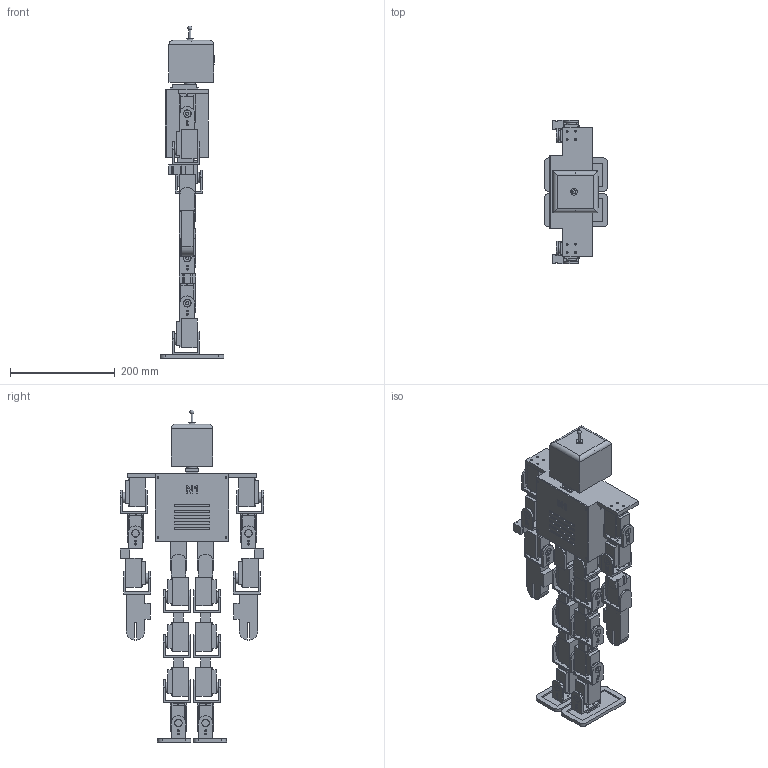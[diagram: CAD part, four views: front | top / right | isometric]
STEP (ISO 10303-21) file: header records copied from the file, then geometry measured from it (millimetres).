
FILE_DESCRIPTION(('FreeCAD Model'),'2;1');
FILE_NAME('Open CASCADE Shape Model','2026-11-08T23:30:08',('FreeCAD'),( 'FreeCAD'),'Open CASCADE STEP processor 7.8','FreeCAD','Unknown');
FILE_SCHEMA(('AUTOMOTIVE_DESIGN { 1 0 10303 214 1 1 1 1 }'));
Length unit declared in the file: millimetre
Products named in the file (1): Open CASCADE STEP translator 7.8 15
Bounding box: 122 x 274 x 634.9 mm (x, y, z)
Volume: 1992150.5 mm3; surface area: 811175.1 mm2
Topology: 81 solids, 81 shells, 1773 faces, 4392 edges, 2959 vertices
Faces by surface type: plane 1219, cylinder 550, extrusion 3, sphere 1
Full cylindrical faces by diameter (mm): 2 x34, 2.5 x122, 3 x34, 3.4 x34, 3.5 x84, 3.6 x1, 4.4 x4, 5.9 x17, 8 x16, 8.4 x16, 9 x2, 12.6 x1, 14 x17, 14.5 x17, 20 x17
Entity records: 53597 total; most frequent: DIRECTION 9195, CARTESIAN_POINT 9181, ORIENTED_EDGE 8782, EDGE_CURVE 4391, VECTOR 3123, LINE 3120, AXIS2_PLACEMENT_3D 3036, VERTEX_POINT 2959
